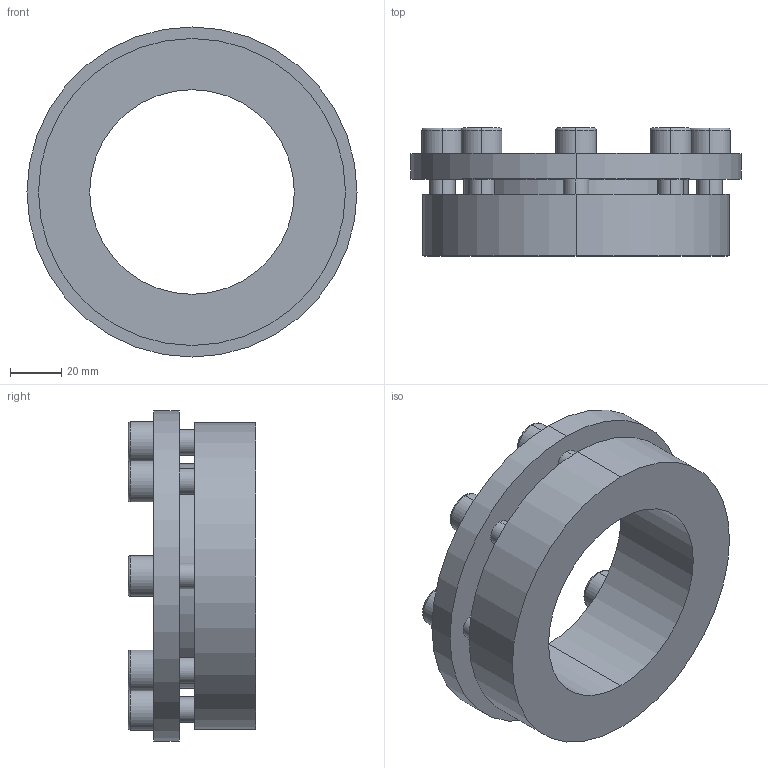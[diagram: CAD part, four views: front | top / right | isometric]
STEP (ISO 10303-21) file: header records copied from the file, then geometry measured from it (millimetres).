
FILE_DESCRIPTION (( 'STEP AP203' ), '1' );
FILE_NAME ('PL-H6 80-120.STEP', '2021-10-23T01:37:58', ( '' ), ( '' ), 'SwSTEP 2.0', 'SolidWorks 2018', '' );
FILE_SCHEMA (( 'CONFIG_CONTROL_DESIGN' ));
Length unit declared in the file: millimetre
Products named in the file (1): PL-H6 80-120
Bounding box: 129 x 50 x 129 mm (x, y, z)
Volume: 255116.5 mm3; surface area: 56559 mm2
Topology: 1 solids, 1 shells, 124 faces, 296 edges, 192 vertices
Faces by surface type: plane 68, cylinder 40, torus 16
Entity records: 3717 total; most frequent: DIRECTION 658, CARTESIAN_POINT 613, ORIENTED_EDGE 592, EDGE_CURVE 296, AXIS2_PLACEMENT_3D 237, VERTEX_POINT 192, VECTOR 184, LINE 184
